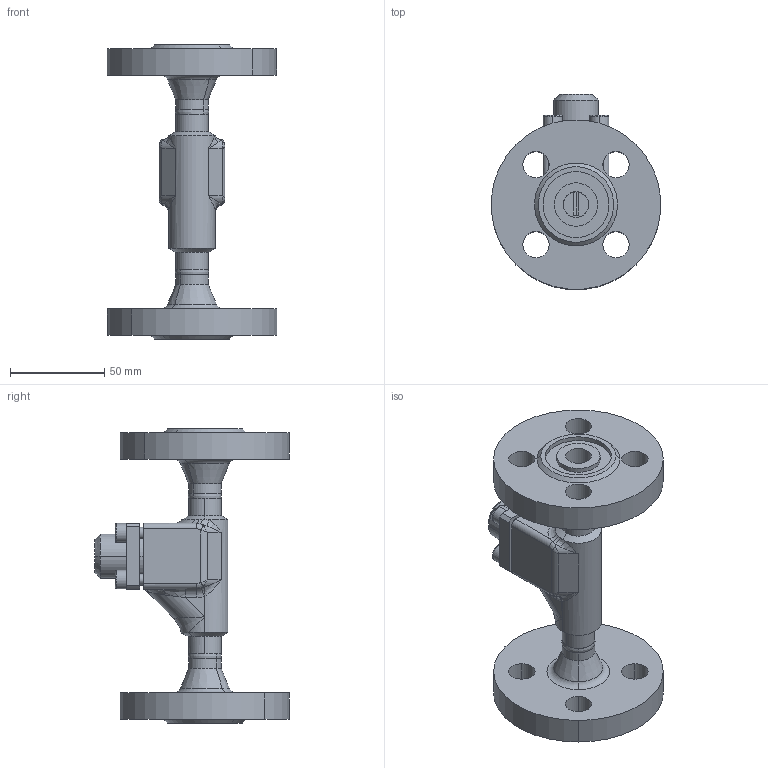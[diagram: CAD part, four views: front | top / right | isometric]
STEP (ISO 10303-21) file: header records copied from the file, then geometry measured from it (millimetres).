
FILE_DESCRIPTION (( 'STEP AP214' ), '1' );
FILE_NAME ('RV98320-DN010_DIN-FL-N_PS40.STEP', '2006-05-02T09:28:05', ( 'Herr Grams' ), ( 'AWP GmbH' ), 'SwSTEP 2.0', 'SolidWorks 2002296', '' );
FILE_SCHEMA (( 'AUTOMOTIVE_DESIGN' ));
Length unit declared in the file: millimetre
Products named in the file (9): RV98320-DN010_DIN-FL-N_PS40; Geh-kpl96320E08-DN10_PS40_DIN-FL_Standard; Gehäuse96300E08-DN10_PS40_R1_Standard; Flansch-DIN2635-Nut_PS40_DIN-Flansch-DN010_PS40-Nut; bead963-DN010-2_Standard; bead963-DN010-1_Standard; RV98300E10_Deck+Schr-DN6-15_Standard; Zylinderschraube-DIN912_M 6x 18; Deckel98300E10-DN6-15_PS40_Standard
Assembly tree (12 placements, depth 3):
  RV98320-DN010_DIN-FL-N_PS40
    Geh-kpl96320E08-DN10_PS40_DIN-FL_Standard
      Gehäuse96300E08-DN10_PS40_R1_Standard
      Flansch-DIN2635-Nut_PS40_DIN-Flansch-DN010_PS40-Nut  x2
      bead963-DN010-1_Standard
      bead963-DN010-2_Standard
    RV98300E10_Deck+Schr-DN6-15_Standard
      Zylinderschraube-DIN912_M 6x 18  x4
      Deckel98300E10-DN6-15_PS40_Standard
Bounding box: 89.66 x 103.33 x 156 mm (x, y, z)
Volume: 232007.5 mm3; surface area: 66506.6 mm2
Topology: 10 solids, 10 shells, 288 faces, 674 edges, 414 vertices
Faces by surface type: cylinder 108, plane 87, cone 41, bspline 37, torus 15
Entity records: 19686 total; most frequent: CARTESIAN_POINT 14534, ORIENTED_EDGE 960, DIRECTION 906, EDGE_CURVE 480, AXIS2_PLACEMENT_3D 374, VERTEX_POINT 296, EDGE_LOOP 234, ADVANCED_FACE 202
